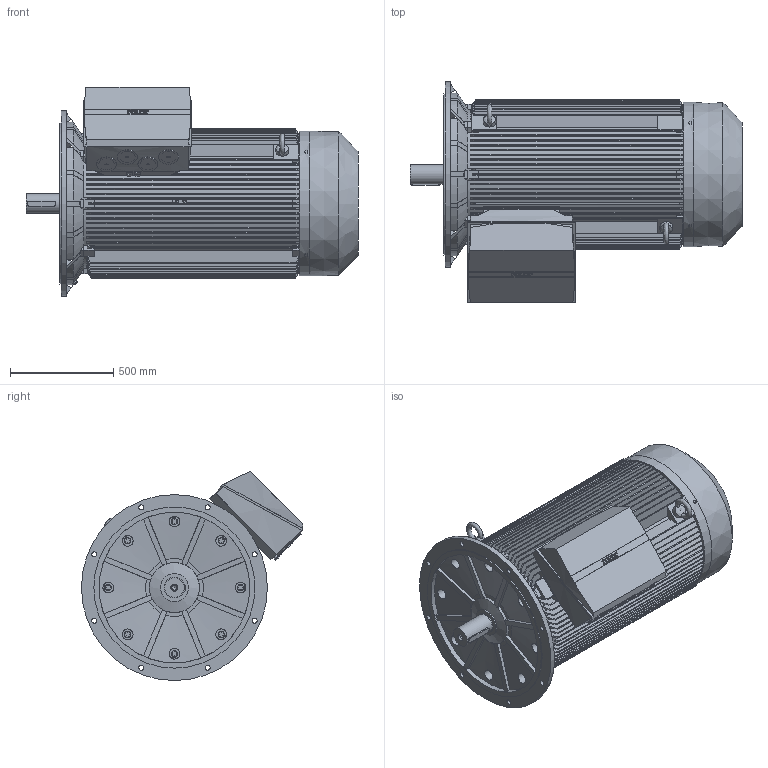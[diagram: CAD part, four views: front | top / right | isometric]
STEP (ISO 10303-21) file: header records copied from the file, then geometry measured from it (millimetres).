
FILE_DESCRIPTION (( 'STEP AP214' ), '1' );
FILE_NAME ('7RN355L04E35 IM3021.STEP', '2018-11-06T07:23:47', ( 'rbc_ict' ), ( '' ), 'SwSTEP 2.0', 'SolidWorks 2015', '' );
FILE_SCHEMA (( 'AUTOMOTIVE_DESIGN' ));
Length unit declared in the file: millimetre
Products named in the file (1): 7RN355L04E35 IM3021
Bounding box: 1607 x 1070.13 x 1012.15 mm (x, y, z)
Volume: 546149120 mm3; surface area: 12572165 mm2
Topology: 1 solids, 4 shells, 1237 faces, 3472 edges, 2291 vertices
Faces by surface type: plane 775, bspline 222, cylinder 217, cone 23
Full cylindrical faces by diameter (mm): 12 x4, 15 x2, 20 x1, 23 x2, 24 x10, 30 x8, 31 x2, 52 x8, 60 x2, 76 x4, 95 x1, 97 x4, 100 x1, 135 x1, 700 x1, 730 x1, 780 x1, 900 x1
Entity records: 64181 total; most frequent: CARTESIAN_POINT 22102, ORIENTED_EDGE 6770, DIRECTION 5029, EDGE_CURVE 3385, VERTEX_POINT 2267, VECTOR 1997, LINE 1997, AXIS2_PLACEMENT_3D 1516
